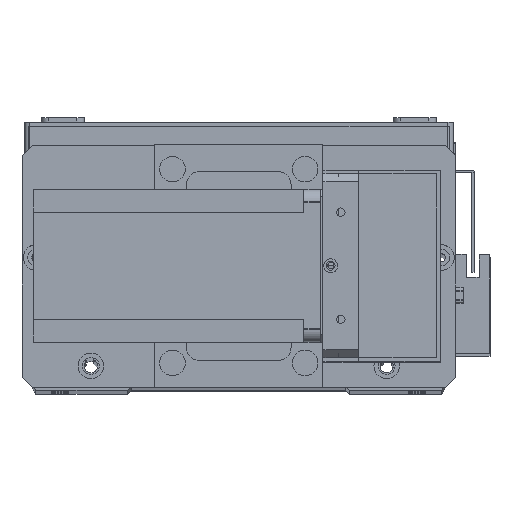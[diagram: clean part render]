
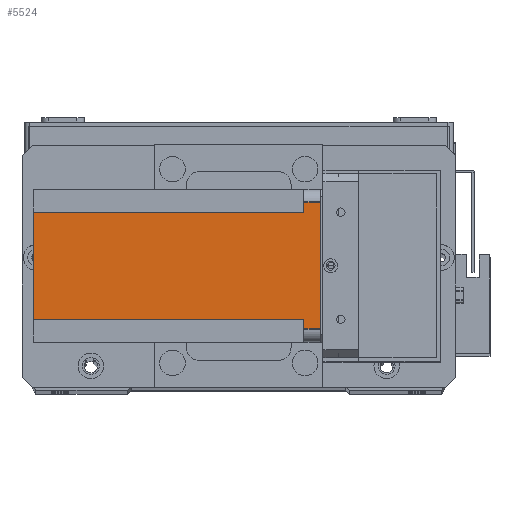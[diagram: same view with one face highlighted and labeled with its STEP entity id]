
A CAD part, top view. The second image highlights one B-rep face of the part: STEP entity #5524.
In plain terms, the highlighted planar face has unit normal (0, 0, 1) as drawn and (-1, 0, 0) by its records, which use the part's own axes.
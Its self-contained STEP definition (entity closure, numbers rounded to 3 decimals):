
#767 = VERTEX_POINT ( 'NONE', #26172 ) ;
#852 = CARTESIAN_POINT ( 'NONE',  ( 0., 5., -6.5 ) ) ;
#1957 = VERTEX_POINT ( 'NONE', #10628 ) ;
#2910 = DIRECTION ( 'NONE',  ( -1., 0., 0. ) ) ;
#3722 = CARTESIAN_POINT ( 'NONE',  ( 0., 9., -112.5 ) ) ;
#4182 = DIRECTION ( 'NONE',  ( 0., 0., -1. ) ) ;
#4415 = DIRECTION ( 'NONE',  ( 0., -1., 0. ) ) ;
#4651 = CARTESIAN_POINT ( 'NONE',  ( 0., 9., -112.5 ) ) ;
#4691 = CARTESIAN_POINT ( 'NONE',  ( 0., 0., -112.5 ) ) ;
#4867 = DIRECTION ( 'NONE',  ( 0., 0., 1. ) ) ;
#4925 = VERTEX_POINT ( 'NONE', #4651 ) ;
#5149 = CARTESIAN_POINT ( 'NONE',  ( 0., 51., -112.5 ) ) ;
#5320 = CARTESIAN_POINT ( 'NONE',  ( 0., 60., -6.5 ) ) ;
#5434 = DIRECTION ( 'NONE',  ( 0., 1., 0. ) ) ;
#5524 = ADVANCED_FACE ( 'NONE', ( #9694 ), #30438, .T. ) ;
#6199 = VERTEX_POINT ( 'NONE', #852 ) ;
#6891 = LINE ( 'NONE', #3722, #7035 ) ;
#6972 = CARTESIAN_POINT ( 'NONE',  ( 0., 55., -112.5 ) ) ;
#6977 = VECTOR ( 'NONE', #4415, 1000. ) ;
#7035 = VECTOR ( 'NONE', #4182, 1000. ) ;
#7040 = LINE ( 'NONE', #4691, #6977 ) ;
#7118 = VECTOR ( 'NONE', #4867, 1000. ) ;
#7148 = LINE ( 'NONE', #5149, #7118 ) ;
#7185 = DIRECTION ( 'NONE',  ( 0., 0., 1. ) ) ;
#7255 = CARTESIAN_POINT ( 'NONE',  ( 0., 5., -112.5 ) ) ;
#7329 = LINE ( 'NONE', #5320, #7475 ) ;
#7475 = VECTOR ( 'NONE', #5434, 1000. ) ;
#7622 = VECTOR ( 'NONE', #8441, 1000. ) ;
#7719 = VECTOR ( 'NONE', #7185, 1000. ) ;
#7950 = VECTOR ( 'NONE', #8802, 1000. ) ;
#8102 = LINE ( 'NONE', #7255, #7719 ) ;
#8137 = LINE ( 'NONE', #6972, #7622 ) ;
#8163 = LINE ( 'NONE', #8840, #7950 ) ;
#8441 = DIRECTION ( 'NONE',  ( 0., 0., -1. ) ) ;
#8802 = DIRECTION ( 'NONE',  ( 0., 1., 0. ) ) ;
#8840 = CARTESIAN_POINT ( 'NONE',  ( 0., 0., -6.5 ) ) ;
#8863 = VECTOR ( 'NONE', #11884, 1000. ) ;
#9021 = LINE ( 'NONE', #11580, #8863 ) ;
#9246 = AXIS2_PLACEMENT_3D ( 'NONE', #30829, #2910, #30224 ) ;
#9694 = FACE_OUTER_BOUND ( 'NONE', #11723, .T. ) ;
#10628 = CARTESIAN_POINT ( 'NONE',  ( 0., 51., -6.5 ) ) ;
#11435 = EDGE_CURVE ( 'NONE', #28334, #12938, #9021, .T. ) ;
#11559 = EDGE_CURVE ( 'NONE', #6199, #16782, #8163, .T. ) ;
#11580 = CARTESIAN_POINT ( 'NONE',  ( 0., 0., 0. ) ) ;
#11607 = EDGE_CURVE ( 'NONE', #6199, #12938, #8102, .T. ) ;
#11617 = EDGE_CURVE ( 'NONE', #28334, #767, #8137, .T. ) ;
#11698 = EDGE_CURVE ( 'NONE', #1957, #767, #7329, .T. ) ;
#11703 = EDGE_CURVE ( 'NONE', #27959, #1957, #7148, .T. ) ;
#11723 = EDGE_LOOP ( 'NONE', ( #29882, #25302, #27164, #21438, #18605, #25410, #13919, #20769 ) ) ;
#11734 = EDGE_CURVE ( 'NONE', #27959, #4925, #7040, .T. ) ;
#11790 = EDGE_CURVE ( 'NONE', #16782, #4925, #6891, .T. ) ;
#11884 = DIRECTION ( 'NONE',  ( 0., -1., 0. ) ) ;
#12938 = VERTEX_POINT ( 'NONE', #24064 ) ;
#13919 = ORIENTED_EDGE ( 'NONE', *, *, #11734, .T. ) ;
#14066 = CARTESIAN_POINT ( 'NONE',  ( 0., 9., -6.5 ) ) ;
#16782 = VERTEX_POINT ( 'NONE', #14066 ) ;
#18605 = ORIENTED_EDGE ( 'NONE', *, *, #11698, .F. ) ;
#19478 = CARTESIAN_POINT ( 'NONE',  ( 0., 55., 0. ) ) ;
#19929 = CARTESIAN_POINT ( 'NONE',  ( 0., 51., -112.5 ) ) ;
#20769 = ORIENTED_EDGE ( 'NONE', *, *, #11790, .F. ) ;
#21438 = ORIENTED_EDGE ( 'NONE', *, *, #11617, .T. ) ;
#24064 = CARTESIAN_POINT ( 'NONE',  ( 0., 5., 0. ) ) ;
#25302 = ORIENTED_EDGE ( 'NONE', *, *, #11607, .T. ) ;
#25410 = ORIENTED_EDGE ( 'NONE', *, *, #11703, .F. ) ;
#26172 = CARTESIAN_POINT ( 'NONE',  ( 0., 55., -6.5 ) ) ;
#27164 = ORIENTED_EDGE ( 'NONE', *, *, #11435, .F. ) ;
#27959 = VERTEX_POINT ( 'NONE', #19929 ) ;
#28334 = VERTEX_POINT ( 'NONE', #19478 ) ;
#29882 = ORIENTED_EDGE ( 'NONE', *, *, #11559, .F. ) ;
#30224 = DIRECTION ( 'NONE',  ( 0., -1., 0. ) ) ;
#30438 = PLANE ( 'NONE',  #9246 ) ;
#30829 = CARTESIAN_POINT ( 'NONE',  ( 0., 0., -112.5 ) ) ;
